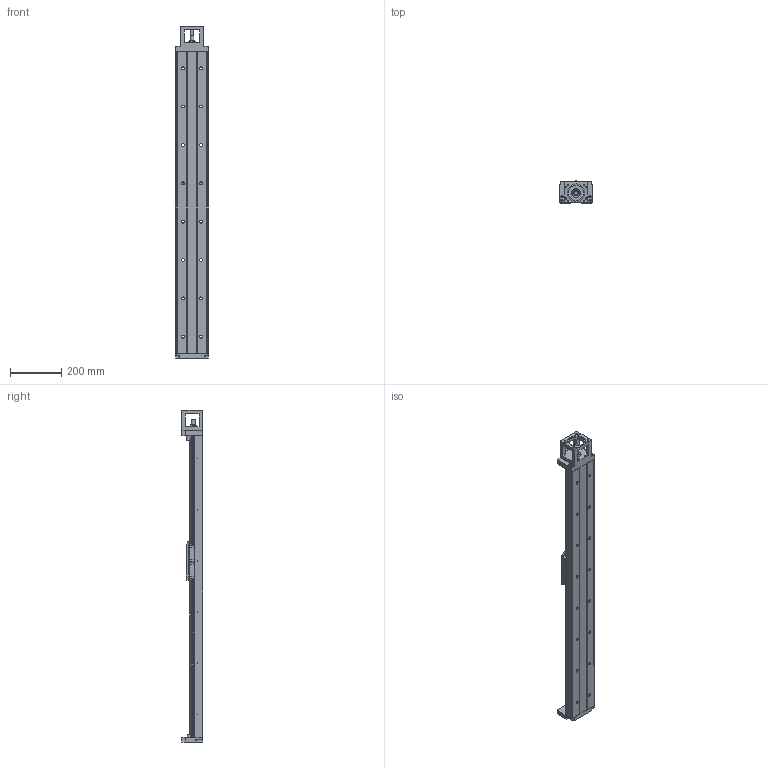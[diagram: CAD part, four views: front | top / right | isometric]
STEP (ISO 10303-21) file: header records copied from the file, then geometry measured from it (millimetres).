
FILE_DESCRIPTION(/* description */ (''),/* implementation_level */ '2;1');
FILE_NAME(/* name */ 'TKK130-1180A1F0.stp',/* time_stamp */ '2016-12-22T10:21:53+08:00',/* author */ (''),/* organization */ (''),/* preprocessor_version */ 'ST-DEVELOPER v15',/* originating_system */ 'SIEMENS PLM Software NX 8.5',/* authorisation */ '');
FILE_SCHEMA (('AUTOMOTIVE_DESIGN { 1 0 10303 214 3 1 1 1 }'));
Length unit declared in the file: millimetre
Products named in the file (3): 02; 01; TKK130-1180A1F0
Assembly tree (2 placements, depth 2):
  TKK130-1180A1F0
    01
    02
Bounding box: 130 x 85 x 1298 mm (x, y, z)
Volume: 4905896.3 mm3; surface area: 804720.7 mm2
Topology: 2 solids, 40 shells, 997 faces, 2647 edges, 1733 vertices
Faces by surface type: plane 554, cylinder 286, cone 117, extrusion 33, bspline 6, torus 1
Full cylindrical faces by diameter (mm): 2.1 x12, 2.5 x4, 3.3 x58, 4.5 x16, 5 x23, 6.6 x10, 6.8 x8, 7 x2, 8 x8, 8.5 x4, 9 x8, 11 x20, 12 x4, 15 x1, 16.3 x1, 17 x18, 25 x1, 35 x2, 40 x3, 60.03 x1, 70.03 x1
Entity records: 29617 total; most frequent: CARTESIAN_POINT 6481, DIRECTION 4466, ORIENTED_EDGE 4130, EDGE_CURVE 2065, AXIS2_PLACEMENT_3D 1599, VERTEX_POINT 1566, EDGE_LOOP 1413, VECTOR 1268
